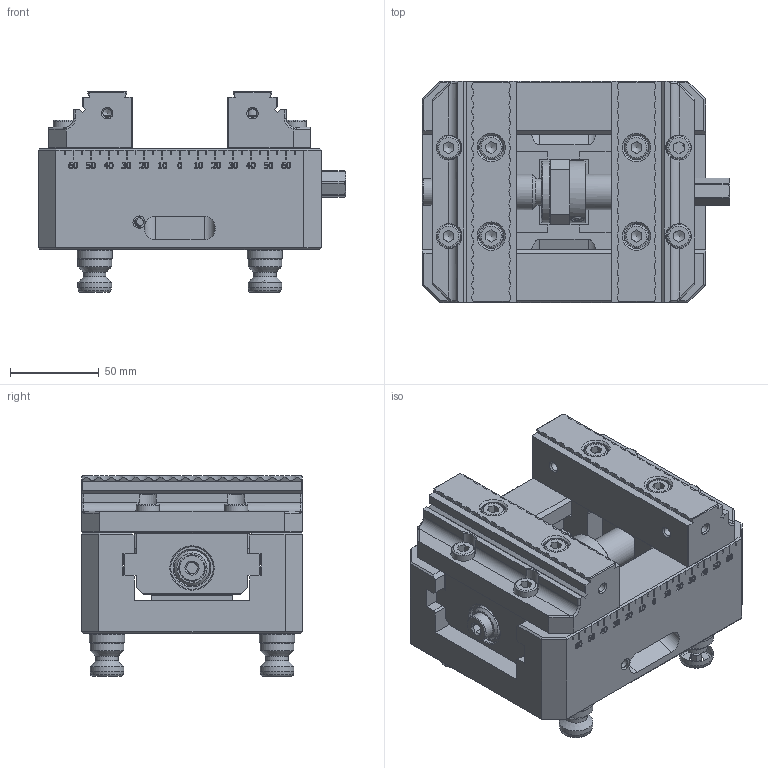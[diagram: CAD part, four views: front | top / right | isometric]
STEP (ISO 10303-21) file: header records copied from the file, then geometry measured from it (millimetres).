
FILE_DESCRIPTION(/* description */ (''),/* implementation_level */ '2;1');
FILE_NAME(/* name */ '1AZV516GA0101.stp',/* time_stamp */ '2025-11-10T01:16:20+08:00',/* author */ ('UserName'),/* organization */ (''),/* preprocessor_version */ 'ST-DEVELOPER v20',/* originating_system */ 'Autodesk Inventor 2025',/* authorisation */ '');
FILE_SCHEMA (('CONFIG_CONTROL_DESIGN'));
Products named in the file (1): 零件2
Bounding box: 173.72 x 125 x 113 mm (x, y, z)
Volume: 1191283 mm3; surface area: 193340.7 mm2
Topology: 17 solids, 47 shells, 2347 faces, 6195 edges, 4009 vertices
Faces by surface type: plane 1208, bspline 574, cylinder 316, cone 185, sphere 32, torus 32
Full cylindrical faces by diameter (mm): 3 x8, 3.242 x4, 4.5 x2, 4.917 x10, 6.1 x4, 6.647 x8, 8 x12, 8.5 x8, 9 x8, 10 x1, 12.6 x4, 13 x8, 14 x8, 15 x3, 15.992 x4, 16 x4, 18.7 x1, 19.012 x8, 19.972 x4, 20 x8, 24 x2, 35 x6
Entity records: 87356 total; most frequent: CARTESIAN_POINT 30707, ORIENTED_EDGE 12364, DIRECTION 9446, EDGE_CURVE 6182, VERTEX_POINT 4073, LINE 3824, VECTOR 3824, AXIS2_PLACEMENT_3D 2811
